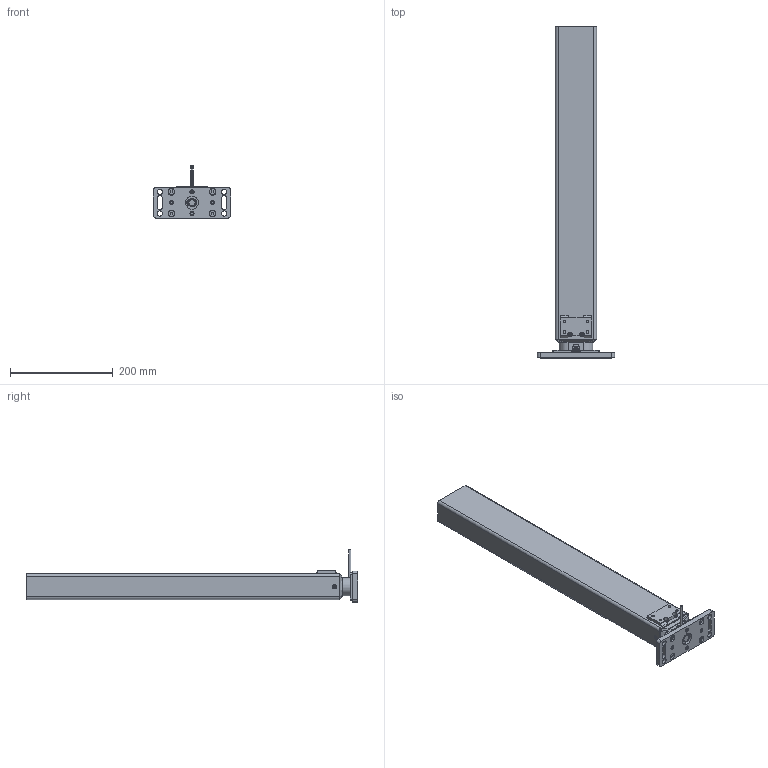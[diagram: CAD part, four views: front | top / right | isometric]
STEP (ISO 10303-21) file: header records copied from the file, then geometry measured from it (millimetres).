
FILE_DESCRIPTION(/* description */ ('Unknown'),/* implementation_level */ '2;1');
FILE_NAME(/* name */ '306.00100 Tischbein TA 1850 eingefahren',/* time_stamp */ '2018-01-31T16:39:43+01:00',/* author */ ('Unknown'),/* organization */ ('Unknown'),/* preprocessor_version */ 'ST-DEVELOPER v16.7',/* originating_system */ 'DEX',/* authorisation */ $);
FILE_SCHEMA (('AUTOMOTIVE_DESIGN {1 0 10303 214 3 1 1}'));
Length unit declared in the file: millimetre
Products named in the file (20): 306.00100; 142.00068; 109.00149_oa_0; 125.00063; 142.00021; 125.00021; 115.00008_oa_1; 127.00038; 127.00034_oa_2; Aussenprofil TA 1450; 127.00032; 127.00035; Innenprofil TA 1450; Abschlussplatte; 127.00048; Schraube 2,9x6,4; 127.00034_2'403_2'488_Kehlnaht 1_oa_3; 113.00002_70mm; 142.00031; 142.00077
Assembly tree (26 placements, depth 3):
  306.00100
    142.00068
    109.00149_oa_0
      125.00063
      142.00021
      125.00021
      115.00008_oa_1
    127.00038
    127.00034_oa_2
      Aussenprofil TA 1450
      127.00032
      127.00035
      Innenprofil TA 1450
      Abschlussplatte
      127.00048
      Schraube 2,9x6,4  x6
    113.00002_70mm
    142.00031
    142.00077  x4
  127.00034_2'403_2'488_Kehlnaht 1_oa_3
Bounding box: 150 x 645.5 x 101.5 mm (x, y, z)
Volume: 610530.7 mm3; surface area: 567877 mm2
Topology: 27 solids, 27 shells, 971 faces, 2291 edges, 1362 vertices
Faces by surface type: cylinder 359, plane 325, bspline 129, cone 73, torus 72, sphere 13
Full cylindrical faces by diameter (mm): 1.8 x2, 2.2 x1, 2.5 x6, 2.9 x6, 2.99 x1, 3.5 x1, 4 x1, 4.1 x1, 4.2 x1, 4.917 x16, 5.8 x8, 6 x4, 6.5 x6, 6.647 x1, 6.917 x2, 7 x4, 8 x2, 8.376 x2, 9 x1, 10 x4, 12.5 x1, 13 x6, 13.5 x1, 14.4 x1, 17.9 x2, 25 x1
Entity records: 23405 total; most frequent: CARTESIAN_POINT 5813, DIRECTION 3223, ORIENTED_EDGE 3122, EDGE_CURVE 1561, AXIS2_PLACEMENT_3D 1278, VERTEX_POINT 1011, FACE_BOUND 944, EDGE_LOOP 942
